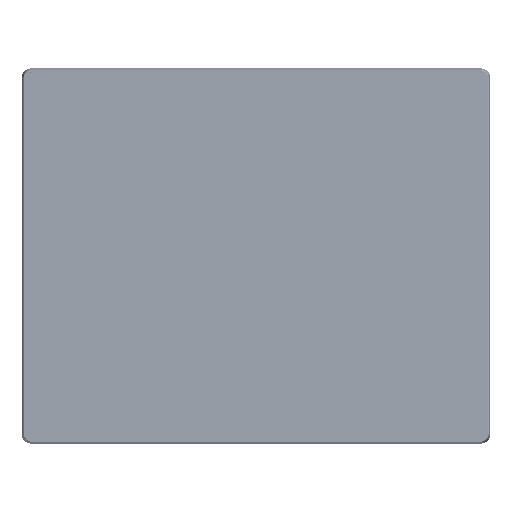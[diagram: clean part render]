
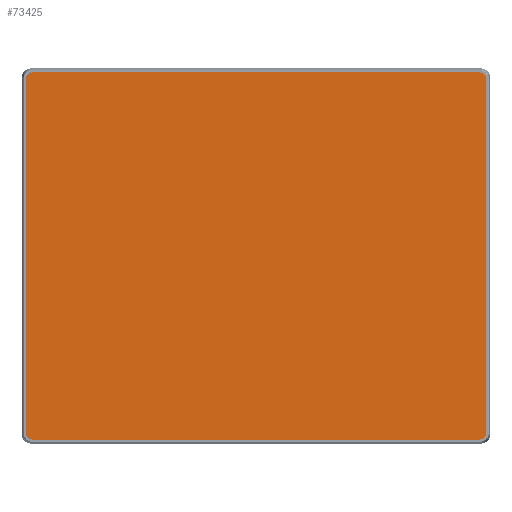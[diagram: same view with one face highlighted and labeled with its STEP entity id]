
A CAD part, top view. The second image highlights one B-rep face of the part: STEP entity #73425.
In plain terms, the highlighted planar face has unit normal (0, 0, 1).
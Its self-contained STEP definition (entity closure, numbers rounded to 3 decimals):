
#72848=CARTESIAN_POINT('',(-175.75,139.25,2.46));
#72849=DIRECTION('',(0.,0.,1.));
#72850=DIRECTION('',(0.,1.,0.));
#72851=AXIS2_PLACEMENT_3D('',#72848,#72849,#72850);
#72856=DIRECTION('',(-1.,0.,0.));
#72857=VECTOR('',#72856,351.5);
#72858=CARTESIAN_POINT('',(175.75,144.25,2.46));
#72859=LINE('',#72858,#72857);
#72863=CARTESIAN_POINT('',(175.75,139.25,2.46));
#72864=DIRECTION('',(0.,0.,1.));
#72865=DIRECTION('',(1.,0.,0.));
#72866=AXIS2_PLACEMENT_3D('',#72863,#72864,#72865);
#72871=DIRECTION('',(0.,1.,0.));
#72872=VECTOR('',#72871,278.5);
#72873=CARTESIAN_POINT('',(180.75,-139.25,2.46));
#72874=LINE('',#72873,#72872);
#72878=CARTESIAN_POINT('',(175.75,-139.25,2.46));
#72879=DIRECTION('',(0.,0.,1.));
#72880=DIRECTION('',(0.,-1.,0.));
#72881=AXIS2_PLACEMENT_3D('',#72878,#72879,#72880);
#72886=DIRECTION('',(1.,0.,0.));
#72887=VECTOR('',#72886,351.5);
#72888=CARTESIAN_POINT('',(-175.75,-144.25,2.46));
#72889=LINE('',#72888,#72887);
#72893=CARTESIAN_POINT('',(-175.75,-139.25,2.46));
#72894=DIRECTION('',(0.,0.,1.));
#72895=DIRECTION('',(-1.,0.,0.));
#72896=AXIS2_PLACEMENT_3D('',#72893,#72894,#72895);
#72901=DIRECTION('',(0.,-1.,0.));
#72902=VECTOR('',#72901,278.5);
#72903=CARTESIAN_POINT('',(-180.75,139.25,2.46));
#72904=LINE('',#72903,#72902);
#73070=CARTESIAN_POINT('',(-175.75,144.25,2.46));
#73071=CARTESIAN_POINT('',(-180.75,139.25,2.46));
#73072=VERTEX_POINT('',#73070);
#73073=VERTEX_POINT('',#73071);
#73074=CARTESIAN_POINT('',(180.75,139.25,2.46));
#73075=CARTESIAN_POINT('',(175.75,144.25,2.46));
#73076=VERTEX_POINT('',#73074);
#73077=VERTEX_POINT('',#73075);
#73078=CARTESIAN_POINT('',(175.75,-144.25,2.46));
#73079=CARTESIAN_POINT('',(180.75,-139.25,2.46));
#73080=VERTEX_POINT('',#73078);
#73081=VERTEX_POINT('',#73079);
#73082=CARTESIAN_POINT('',(-180.75,-139.25,2.46));
#73083=CARTESIAN_POINT('',(-175.75,-144.25,2.46));
#73084=VERTEX_POINT('',#73082);
#73085=VERTEX_POINT('',#73083);
#73410=CARTESIAN_POINT('',(0.,0.,2.46));
#73411=DIRECTION('',(0.,0.,1.));
#73412=DIRECTION('',(1.,0.,0.));
#73413=AXIS2_PLACEMENT_3D('',#73410,#73411,#73412);
#73414=PLANE('',#73413);
#73415=ORIENTED_EDGE('',*,*,#73364,.F.);
#73416=ORIENTED_EDGE('',*,*,#73350,.F.);
#73417=ORIENTED_EDGE('',*,*,#73336,.F.);
#73418=ORIENTED_EDGE('',*,*,#73322,.F.);
#73419=ORIENTED_EDGE('',*,*,#73308,.F.);
#73420=ORIENTED_EDGE('',*,*,#73405,.F.);
#73421=ORIENTED_EDGE('',*,*,#73392,.F.);
#73422=ORIENTED_EDGE('',*,*,#73378,.F.);
#73423=EDGE_LOOP('',(#73415,#73416,#73417,#73418,#73419,#73420,#73421,#73422));
#73424=FACE_OUTER_BOUND('',#73423,.F.);
#72852=CIRCLE('',#72851,5.);
#72867=CIRCLE('',#72866,5.);
#72882=CIRCLE('',#72881,5.);
#72897=CIRCLE('',#72896,5.);
#73308=EDGE_CURVE('',#73080,#73081,#72882,.T.);
#73322=EDGE_CURVE('',#73081,#73076,#72874,.T.);
#73336=EDGE_CURVE('',#73076,#73077,#72867,.T.);
#73350=EDGE_CURVE('',#73077,#73072,#72859,.T.);
#73364=EDGE_CURVE('',#73072,#73073,#72852,.T.);
#73378=EDGE_CURVE('',#73073,#73084,#72904,.T.);
#73392=EDGE_CURVE('',#73084,#73085,#72897,.T.);
#73405=EDGE_CURVE('',#73085,#73080,#72889,.T.);
#73425=ADVANCED_FACE('',(#73424),#73414,.T.);
